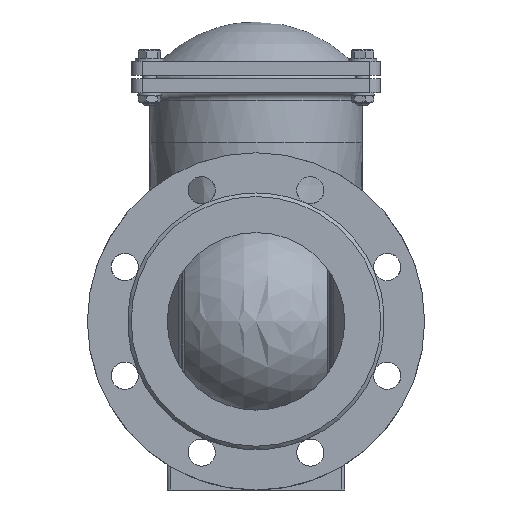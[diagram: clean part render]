
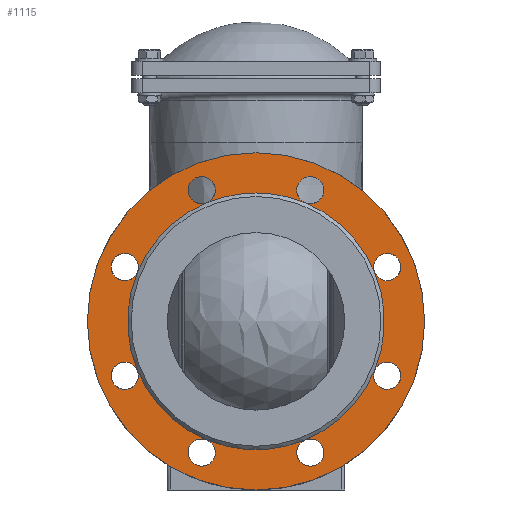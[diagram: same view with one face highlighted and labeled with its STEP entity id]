
A CAD part, left-side view. The second image highlights one B-rep face of the part: STEP entity #1115.
In plain terms, the highlighted planar face has unit normal (-1, 0, 0).
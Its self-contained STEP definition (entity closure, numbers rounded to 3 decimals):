
#1115=ADVANCED_FACE('',(#4530,#4532,#4534,#4536,#4538,#4540,#4542,#4544,#4546,#4548),
#4550,.F.);
#4530=FACE_BOUND('',#4531,.T.);
#4531=EDGE_LOOP('',(#9458));
#4532=FACE_BOUND('',#4533,.T.);
#4533=EDGE_LOOP('',(#9459,#9460));
#4534=FACE_BOUND('',#4535,.T.);
#4535=EDGE_LOOP('',(#9461));
#4536=FACE_BOUND('',#4537,.T.);
#4537=EDGE_LOOP('',(#9462,#9463,#9464,#9465,#9466,#9467,#9468));
#4538=FACE_BOUND('',#4539,.T.);
#4539=EDGE_LOOP('',(#9469,#9470));
#4540=FACE_BOUND('',#4541,.T.);
#4541=EDGE_LOOP('',(#9471));
#4542=FACE_BOUND('',#4543,.T.);
#4543=EDGE_LOOP('',(#9472,#9473));
#4544=FACE_BOUND('',#4545,.T.);
#4545=EDGE_LOOP('',(#9474,#9475));
#4546=FACE_BOUND('',#4547,.T.);
#4547=EDGE_LOOP('',(#9476,#9477));
#4548=FACE_BOUND('',#4549,.T.);
#4549=EDGE_LOOP('',(#9478,#9479));
#4550=PLANE('',#4551);
#4551=AXIS2_PLACEMENT_3D('',#4552,#4553,#4554);
#4552=CARTESIAN_POINT('',(-397.,0.,0.));
#4553=DIRECTION('',(1.,0.,0.));
#4554=DIRECTION('',(0.,0.,1.));
#9458=ORIENTED_EDGE('',*,*,#12119,.T.);
#9459=ORIENTED_EDGE('',*,*,#12120,.T.);
#9460=ORIENTED_EDGE('',*,*,#12121,.T.);
#9461=ORIENTED_EDGE('',*,*,#12122,.T.);
#9462=ORIENTED_EDGE('',*,*,#11912,.F.);
#9463=ORIENTED_EDGE('',*,*,#11911,.F.);
#9464=ORIENTED_EDGE('',*,*,#11910,.F.);
#9465=ORIENTED_EDGE('',*,*,#11909,.F.);
#9466=ORIENTED_EDGE('',*,*,#11908,.F.);
#9467=ORIENTED_EDGE('',*,*,#11907,.F.);
#9468=ORIENTED_EDGE('',*,*,#11906,.F.);
#9469=ORIENTED_EDGE('',*,*,#12123,.T.);
#9470=ORIENTED_EDGE('',*,*,#12124,.T.);
#9471=ORIENTED_EDGE('',*,*,#12125,.T.);
#9472=ORIENTED_EDGE('',*,*,#12126,.T.);
#9473=ORIENTED_EDGE('',*,*,#12127,.T.);
#9474=ORIENTED_EDGE('',*,*,#12128,.T.);
#9475=ORIENTED_EDGE('',*,*,#12129,.T.);
#9476=ORIENTED_EDGE('',*,*,#12130,.T.);
#9477=ORIENTED_EDGE('',*,*,#12131,.T.);
#9478=ORIENTED_EDGE('',*,*,#12132,.T.);
#9479=ORIENTED_EDGE('',*,*,#12133,.T.);
#11906=EDGE_CURVE('',#13115,#13116,#13117,.T.);
#11907=EDGE_CURVE('',#13116,#13118,#13119,.T.);
#11908=EDGE_CURVE('',#13118,#13120,#13121,.T.);
#11909=EDGE_CURVE('',#13120,#13122,#13123,.T.);
#11910=EDGE_CURVE('',#13122,#13124,#13125,.T.);
#11911=EDGE_CURVE('',#13124,#13126,#13127,.T.);
#11912=EDGE_CURVE('',#13126,#13115,#13128,.T.);
#12119=EDGE_CURVE('',#13531,#13531,#13532,.T.);
#12120=EDGE_CURVE('',#13116,#13533,#13534,.T.);
#12121=EDGE_CURVE('',#13533,#13116,#13535,.T.);
#12122=EDGE_CURVE('',#13536,#13536,#13537,.T.);
#12123=EDGE_CURVE('',#13115,#13538,#13539,.T.);
#12124=EDGE_CURVE('',#13538,#13115,#13540,.T.);
#12125=EDGE_CURVE('',#13541,#13541,#13542,.T.);
#12126=EDGE_CURVE('',#13124,#13543,#13544,.T.);
#12127=EDGE_CURVE('',#13543,#13124,#13545,.T.);
#12128=EDGE_CURVE('',#13122,#13546,#13547,.T.);
#12129=EDGE_CURVE('',#13546,#13122,#13548,.T.);
#12130=EDGE_CURVE('',#13120,#13549,#13550,.T.);
#12131=EDGE_CURVE('',#13549,#13120,#13551,.T.);
#12132=EDGE_CURVE('',#13118,#13552,#13553,.T.);
#12133=EDGE_CURVE('',#13552,#13118,#13554,.T.);
#13115=VERTEX_POINT('',#16528);
#13116=VERTEX_POINT('',#16529);
#13117=CIRCLE('',#16530,108.5);
#13118=VERTEX_POINT('',#16534);
#13119=CIRCLE('',#16535,108.5);
#13120=VERTEX_POINT('',#16539);
#13121=CIRCLE('',#16540,108.5);
#13122=VERTEX_POINT('',#16544);
#13123=CIRCLE('',#16545,108.5);
#13124=VERTEX_POINT('',#16549);
#13125=CIRCLE('',#16550,108.5);
#13126=VERTEX_POINT('',#16554);
#13127=CIRCLE('',#16555,108.5);
#13128=CIRCLE('',#16559,108.5);
#13531=VERTEX_POINT('',#17835);
#13532=CIRCLE('',#17836,142.5);
#13533=VERTEX_POINT('',#17840);
#13534=CIRCLE('',#17841,11.5);
#13535=CIRCLE('',#17845,11.5);
#13536=VERTEX_POINT('',#17849);
#13537=CIRCLE('',#17850,11.5);
#13538=VERTEX_POINT('',#17854);
#13539=CIRCLE('',#17855,11.5);
#13540=CIRCLE('',#17859,11.5);
#13541=VERTEX_POINT('',#17863);
#13542=CIRCLE('',#17864,11.5);
#13543=VERTEX_POINT('',#17868);
#13544=CIRCLE('',#17869,11.5);
#13545=CIRCLE('',#17873,11.5);
#13546=VERTEX_POINT('',#17877);
#13547=CIRCLE('',#17878,11.5);
#13548=CIRCLE('',#17882,11.5);
#13549=VERTEX_POINT('',#17886);
#13550=CIRCLE('',#17887,11.5);
#13551=CIRCLE('',#17891,11.5);
#13552=VERTEX_POINT('',#17895);
#13553=CIRCLE('',#17896,11.5);
#13554=CIRCLE('',#17900,11.5);
#16528=CARTESIAN_POINT('',(-397.,100.241,-41.521));
#16529=CARTESIAN_POINT('',(-397.,41.521,-100.241));
#16530=AXIS2_PLACEMENT_3D('',#16531,#16532,#16533);
#16531=CARTESIAN_POINT('',(-397.,0.,0.));
#16532=DIRECTION('',(-1.,0.,0.));
#16533=DIRECTION('',(0.,0.924,-0.383));
#16534=CARTESIAN_POINT('',(-397.,-41.521,-100.241));
#16535=AXIS2_PLACEMENT_3D('',#16536,#16537,#16538);
#16536=CARTESIAN_POINT('',(-397.,0.,0.));
#16537=DIRECTION('',(-1.,0.,0.));
#16538=DIRECTION('',(0.,0.383,-0.924));
#16539=CARTESIAN_POINT('',(-397.,-100.241,-41.521));
#16540=AXIS2_PLACEMENT_3D('',#16541,#16542,#16543);
#16541=CARTESIAN_POINT('',(-397.,0.,0.));
#16542=DIRECTION('',(-1.,0.,0.));
#16543=DIRECTION('',(0.,-0.383,-0.924));
#16544=CARTESIAN_POINT('',(-397.,-100.241,41.521));
#16545=AXIS2_PLACEMENT_3D('',#16546,#16547,#16548);
#16546=CARTESIAN_POINT('',(-397.,0.,0.));
#16547=DIRECTION('',(-1.,0.,0.));
#16548=DIRECTION('',(0.,-0.924,-0.383));
#16549=CARTESIAN_POINT('',(-397.,-41.521,100.241));
#16550=AXIS2_PLACEMENT_3D('',#16551,#16552,#16553);
#16551=CARTESIAN_POINT('',(-397.,0.,0.));
#16552=DIRECTION('',(-1.,0.,0.));
#16553=DIRECTION('',(0.,-0.924,0.383));
#16554=CARTESIAN_POINT('',(-397.,0.,108.5));
#16555=AXIS2_PLACEMENT_3D('',#16556,#16557,#16558);
#16556=CARTESIAN_POINT('',(-397.,0.,0.));
#16557=DIRECTION('',(-1.,0.,0.));
#16558=DIRECTION('',(0.,-0.383,0.924));
#16559=AXIS2_PLACEMENT_3D('',#16560,#16561,#16562);
#16560=CARTESIAN_POINT('',(-397.,0.,0.));
#16561=DIRECTION('',(-1.,0.,0.));
#16562=DIRECTION('',(0.,0.,1.));
#17835=CARTESIAN_POINT('',(-397.,0.,142.5));
#17836=AXIS2_PLACEMENT_3D('',#17837,#17838,#17839);
#17837=CARTESIAN_POINT('',(-397.,0.,0.));
#17838=DIRECTION('',(-1.,0.,0.));
#17839=DIRECTION('',(0.,0.,1.));
#17840=CARTESIAN_POINT('',(-397.,45.922,-122.366));
#17841=AXIS2_PLACEMENT_3D('',#17842,#17843,#17844);
#17842=CARTESIAN_POINT('',(-397.,45.922,-110.866));
#17843=DIRECTION('',(1.,0.,0.));
#17844=DIRECTION('',(0.,-0.383,0.924));
#17845=AXIS2_PLACEMENT_3D('',#17846,#17847,#17848);
#17846=CARTESIAN_POINT('',(-397.,45.922,-110.866));
#17847=DIRECTION('',(1.,0.,0.));
#17848=DIRECTION('',(0.,0.,-1.));
#17849=CARTESIAN_POINT('',(-397.,122.366,45.922));
#17850=AXIS2_PLACEMENT_3D('',#17851,#17852,#17853);
#17851=CARTESIAN_POINT('',(-397.,110.866,45.922));
#17852=DIRECTION('',(1.,0.,0.));
#17853=DIRECTION('',(0.,1.,0.));
#17854=CARTESIAN_POINT('',(-397.,118.997,-54.054));
#17855=AXIS2_PLACEMENT_3D('',#17856,#17857,#17858);
#17856=CARTESIAN_POINT('',(-397.,110.866,-45.922));
#17857=DIRECTION('',(1.,0.,0.));
#17858=DIRECTION('',(0.,-0.924,0.383));
#17859=AXIS2_PLACEMENT_3D('',#17860,#17861,#17862);
#17860=CARTESIAN_POINT('',(-397.,110.866,-45.922));
#17861=DIRECTION('',(1.,0.,0.));
#17862=DIRECTION('',(0.,0.707,-0.707));
#17863=CARTESIAN_POINT('',(-397.,54.054,118.997));
#17864=AXIS2_PLACEMENT_3D('',#17865,#17866,#17867);
#17865=CARTESIAN_POINT('',(-397.,45.922,110.866));
#17866=DIRECTION('',(1.,0.,0.));
#17867=DIRECTION('',(0.,0.707,0.707));
#17868=CARTESIAN_POINT('',(-397.,-45.922,122.366));
#17869=AXIS2_PLACEMENT_3D('',#17870,#17871,#17872);
#17870=CARTESIAN_POINT('',(-397.,-45.922,110.866));
#17871=DIRECTION('',(1.,0.,0.));
#17872=DIRECTION('',(0.,0.383,-0.924));
#17873=AXIS2_PLACEMENT_3D('',#17874,#17875,#17876);
#17874=CARTESIAN_POINT('',(-397.,-45.922,110.866));
#17875=DIRECTION('',(1.,0.,0.));
#17876=DIRECTION('',(0.,0.,1.));
#17877=CARTESIAN_POINT('',(-397.,-118.997,54.054));
#17878=AXIS2_PLACEMENT_3D('',#17879,#17880,#17881);
#17879=CARTESIAN_POINT('',(-397.,-110.866,45.922));
#17880=DIRECTION('',(1.,0.,0.));
#17881=DIRECTION('',(0.,0.924,-0.383));
#17882=AXIS2_PLACEMENT_3D('',#17883,#17884,#17885);
#17883=CARTESIAN_POINT('',(-397.,-110.866,45.922));
#17884=DIRECTION('',(1.,0.,0.));
#17885=DIRECTION('',(0.,-0.707,0.707));
#17886=CARTESIAN_POINT('',(-397.,-122.366,-45.922));
#17887=AXIS2_PLACEMENT_3D('',#17888,#17889,#17890);
#17888=CARTESIAN_POINT('',(-397.,-110.866,-45.922));
#17889=DIRECTION('',(1.,0.,0.));
#17890=DIRECTION('',(0.,0.924,0.383));
#17891=AXIS2_PLACEMENT_3D('',#17892,#17893,#17894);
#17892=CARTESIAN_POINT('',(-397.,-110.866,-45.922));
#17893=DIRECTION('',(1.,0.,0.));
#17894=DIRECTION('',(0.,-1.,0.));
#17895=CARTESIAN_POINT('',(-397.,-54.054,-118.997));
#17896=AXIS2_PLACEMENT_3D('',#17897,#17898,#17899);
#17897=CARTESIAN_POINT('',(-397.,-45.922,-110.866));
#17898=DIRECTION('',(1.,0.,0.));
#17899=DIRECTION('',(0.,0.383,0.924));
#17900=AXIS2_PLACEMENT_3D('',#17901,#17902,#17903);
#17901=CARTESIAN_POINT('',(-397.,-45.922,-110.866));
#17902=DIRECTION('',(1.,0.,0.));
#17903=DIRECTION('',(0.,-0.707,-0.707));
